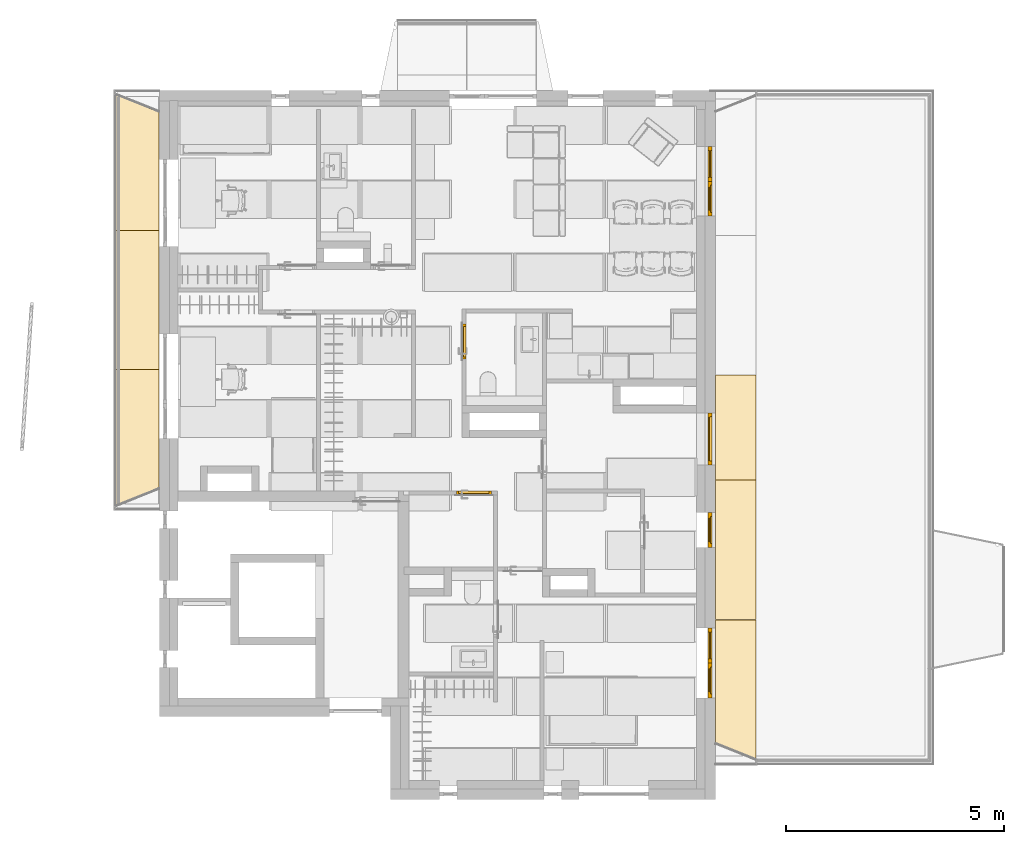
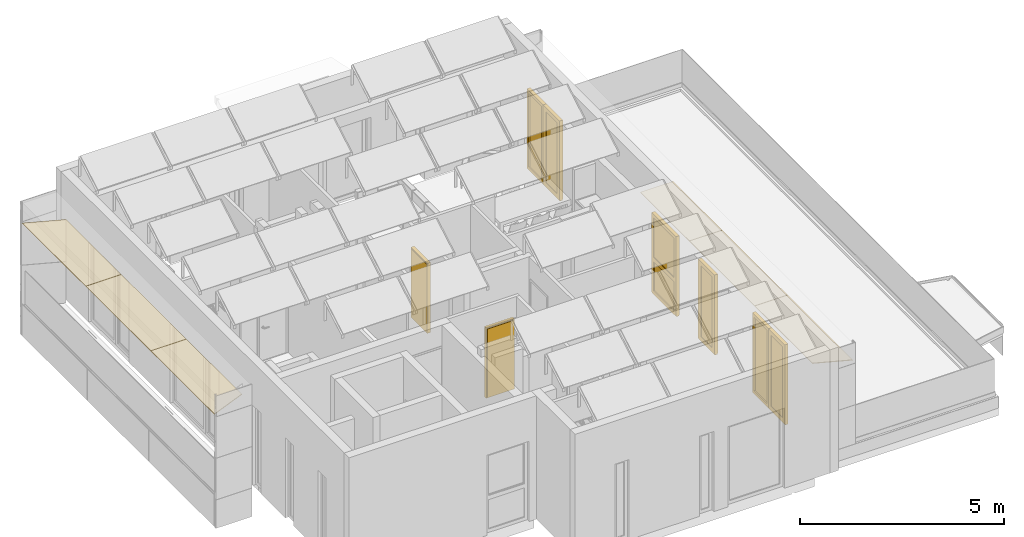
# One storey, part 20 of 57: 6 coverings, 6 windows, 2 doors.
"""IFC2X3 building model written with IfcOpenShell, lengths in millimetres."""

from ifc_helpers import new_model, entity, si_unit, converted_unit, direction, frame, frame_2d, origin, place, context, subcontext, project, spatial, polyline, rectangle, outline, extrude, faceted_brep, source, transform, mapped, material, material_list, layer, layer_set, layer_usage, type_object, type_shapes, element, save


model = new_model("IFC2X3")

# Units and contexts
model_context = context("Model", 3, precision=0.01, world=origin(), true_north=direction((6.123233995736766e-17, 1.0)))
plan_context = context("Plan", 3, precision=0.01, world=origin(), true_north=direction((6.123233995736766e-17, 1.0)))
body_context = subcontext(model_context, "Body", "Model", "MODEL_VIEW")
ifc_project = project(units=[si_unit("LENGTHUNIT", "METRE", prefix="MILLI"), converted_unit("PLANEANGLEUNIT", "DEGREE", entity("IfcPlaneAngleMeasure", 0.017453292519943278), si_unit("PLANEANGLEUNIT", "RADIAN"), dimensions=[0, 0, 0, 0, 0, 0, 0]), si_unit("AREAUNIT", "SQUARE_METRE")], contexts=[model_context, plan_context])

# Site, building, storey
site_placement = place(None, origin())
site = spatial("IfcSite", under=ifc_project, at=site_placement, Name="Default", CompositionType="ELEMENT")
building_placement = place(site_placement, origin())
building = spatial("IfcBuilding", under=site, at=building_placement, CompositionType="ELEMENT")
storey_placement = place(building_placement, frame((0.0, 0.0, 12811.000000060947)))
storey = spatial("IfcBuildingStorey", under=building, at=storey_placement, Name="5K", CompositionType="ELEMENT", Elevation=12811.000000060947)

# Windows
ifc_material_1 = material(Name="_K. Klaas. Pakett")
ifc_material_2 = material(Name="_K. Avatäited. Raam. PVC. RAL9005")
ifc_material_3 = material(Name="_K. Avatäited. Raam. PVC. Valge")
ifc_material_list_1 = material_list([ifc_material_1, ifc_material_2, ifc_material_3])
window_style_1 = type_object("IfcWindowStyle", Name="HR_Window_Generic_Rectangle_1x2:A-13.1200x2400.P", ConstructionType="NOTDEFINED", OperationType="NOTDEFINED", ParameterTakesPrecedence=False, Sizeable=False, material=ifc_material_list_1)
shared_shape_1 = source(origin(), body_context, "Body", "Brep", [
    faceted_brep([(78.0, -154.0, 2322.0), (1122.0, -154.0, 2322.0), (1122.0, -154.0, 1101.0), (78.0, -154.0, 1101.0), (1122.0, -179.0, 2322.0), (1122.0, -179.0, 1101.0), (78.0, -179.0, 1101.0), (78.0, -179.0, 2322.0)], [[[0, 1, 2, 3]], [[2, 1, 4, 5]], [[3, 2, 5, 6]], [[0, 3, 6, 7]], [[7, 6, 5, 4]], [[1, 0, 7, 4]]]),
    faceted_brep([(1122.0, -154.0, 2322.0), (1122.0, -154.0, 1101.0), (1122.0, -179.0, 1101.0), (1122.0, -179.0, 2322.0), (1142.0, -134.0, 2342.0), (58.0, -134.0, 2342.0), (58.0, -194.0, 2342.0), (1142.0, -194.0, 2342.0), (98.0, -154.0, 2302.0), (98.0, -134.0, 2302.0), (1102.0, -134.0, 2302.0), (1102.0, -154.0, 2302.0), (98.0, -179.0, 2302.0), (98.0, -194.0, 2302.0), (98.0, -194.0, 1121.0), (98.0, -179.0, 1121.0), (1142.0, -134.0, 1081.0), (1142.0, -194.0, 1081.0), (58.0, -194.0, 1081.0), (58.0, -134.0, 1081.0), (1102.0, -194.0, 2302.0), (1102.0, -194.0, 1121.0), (98.0, -134.0, 1121.0), (1102.0, -134.0, 1121.0), (98.0, -154.0, 1121.0), (1102.0, -154.0, 1121.0), (78.0, -154.0, 1101.0), (78.0, -179.0, 1101.0), (78.0, -154.0, 2322.0), (78.0, -179.0, 2322.0), (1102.0, -179.0, 2302.0), (1102.0, -179.0, 1121.0)], [[[0, 1, 2, 3]], [[4, 5, 6, 7]], [[8, 9, 10, 11]], [[12, 13, 14, 15]], [[16, 17, 18, 19]], [[4, 7, 17, 16]], [[13, 20, 21, 14], [7, 6, 18, 17]], [[6, 5, 19, 18]], [[5, 4, 16, 19], [10, 9, 22, 23]], [[9, 8, 24, 22]], [[25, 23, 22, 24]], [[11, 10, 23, 25]], [[1, 26, 27, 2]], [[26, 28, 29, 27]], [[28, 26, 1, 0], [8, 11, 25, 24]], [[28, 0, 3, 29]], [[20, 30, 31, 21]], [[21, 31, 15, 14]], [[29, 3, 2, 27], [30, 12, 15, 31]], [[13, 12, 30, 20]]], outer=[[True], [True], [True], [True], [True], [True], [False, True], [True], [True, False], [True], [True], [True], [True], [True], [True, False], [True], [True], [True], [True, False], [True]]),
    faceted_brep([(88.0, -194.0, 989.0), (1112.0, -194.0, 989.0), (1112.0, -194.0, 108.0), (88.0, -194.0, 108.0), (1142.0, -194.0, 1019.0), (58.0, -194.0, 1019.0), (58.0, -194.0, 78.0), (1142.0, -194.0, 78.0), (88.0, -159.0, 989.0), (88.0, -159.0, 108.0), (1112.0, -159.0, 108.0), (1142.0, -159.0, 1019.0), (1142.0, -159.0, 78.0), (58.0, -159.0, 78.0), (58.0, -159.0, 1019.0), (1112.0, -159.0, 989.0)], [[[0, 1, 2, 3], [4, 5, 6, 7]], [[8, 0, 3, 9]], [[9, 3, 2, 10]], [[11, 12, 13, 14], [15, 8, 9, 10]], [[1, 15, 10, 2]], [[6, 5, 14, 13]], [[7, 6, 13, 12]], [[4, 7, 12, 11]], [[15, 1, 0, 8]], [[5, 4, 11, 14]]], outer=[[False, True], [True], [True], [True, False], [True], [True], [True], [True], [True], [True]]),
    faceted_brep([(1142.0, -159.0, 1019.0), (58.0, -159.0, 1019.0), (58.0, -159.0, 78.0), (1142.0, -159.0, 78.0), (58.0, -134.0, 1019.0), (58.0, -134.0, 78.0), (1142.0, -134.0, 78.0), (1142.0, -134.0, 1019.0)], [[[0, 1, 2, 3]], [[2, 1, 4, 5]], [[3, 2, 5, 6]], [[0, 3, 6, 7]], [[7, 6, 5, 4]], [[1, 0, 7, 4]]]),
    faceted_brep([(58.0, -134.0, 2342.0), (58.0, -134.0, 1081.0), (1142.0, -134.0, 1081.0), (1142.0, -134.0, 2342.0), (88.0, -134.0, 2312.0), (1112.0, -134.0, 2312.0), (1112.0, -134.0, 1111.0), (88.0, -134.0, 1111.0), (1142.0, -134.0, 1019.0), (1142.0, -134.0, 78.0), (1142.0, -194.0, 78.0), (1142.0, -194.0, 1019.0), (58.0, -134.0, 78.0), (58.0, -134.0, 1019.0), (58.0, -194.0, 1019.0), (58.0, -194.0, 78.0), (1112.0, -100.0, 108.0), (88.0, -100.0, 108.0), (88.0, -134.0, 108.0), (1112.0, -134.0, 108.0), (88.0, -100.0, 989.0), (88.0, -134.0, 989.0), (1112.0, -100.0, 989.0), (1112.0, -134.0, 989.0), (1200.0, -194.0, 2400.0), (0.0, -194.0, 2400.0), (0.0, -194.0, 30.0), (1200.0, -194.0, 30.0), (58.0, -194.0, 2342.0), (1142.0, -194.0, 2342.0), (1142.0, -194.0, 1081.0), (58.0, -194.0, 1081.0), (0.0, -100.0, 2400.0), (0.0, -100.0, 30.0), (0.0, -110.0, 30.0), (0.0, -110.0, 0.0), (0.0, -184.0, 0.0), (0.0, -184.0, 30.0), (1200.0, -184.0, 30.0), (1200.0, -100.0, 2400.0), (1200.0, -184.0, 0.0), (1200.0, -110.0, 0.0), (1200.0, -110.0, 30.0), (1200.0, -100.0, 30.0), (88.0, -100.0, 2312.0), (88.0, -100.0, 1111.0), (1112.0, -100.0, 1111.0), (1112.0, -100.0, 2312.0)], [[[0, 1, 2, 3], [4, 5, 6, 7]], [[8, 9, 10, 11]], [[12, 13, 14, 15]], [[9, 12, 15, 10]], [[16, 17, 18, 19]], [[17, 20, 21, 18]], [[22, 16, 19, 23]], [[11, 10, 15, 14], [24, 25, 26, 27], [28, 29, 30, 31]], [[25, 32, 33, 34, 35, 36, 37, 26]], [[37, 38, 27, 26]], [[39, 24, 27, 38, 40, 41, 42, 43]], [[17, 16, 22, 20], [32, 39, 43, 33], [44, 45, 46, 47]], [[42, 34, 33, 43]], [[34, 42, 41, 35]], [[35, 41, 40, 36]], [[38, 37, 36, 40]], [[25, 24, 39, 32]], [[44, 47, 5, 4]], [[47, 46, 6, 5]], [[45, 44, 4, 7]], [[0, 3, 29, 28]], [[3, 2, 30, 29]], [[13, 8, 11, 14]], [[1, 0, 28, 31]], [[2, 1, 31, 30]], [[46, 45, 7, 6]], [[20, 22, 23, 21]], [[9, 8, 13, 12], [19, 18, 21, 23]]], outer=[[True, False], [True], [True], [True], [True], [True], [True], [False, True, False], [True], [True], [True], [False, True, False], [True], [True], [True], [True], [True], [True], [True], [True], [True], [True], [True], [True], [True], [True], [True], [True, False]]),
])
type_shapes(window_style_1, [shared_shape_1])
window_1_placement = place(storey_placement, frame((12350.0, 8440.0, 0.0), z_axis=(0.0, 0.0, 1.0), x_axis=(0.0, -1.0, 0.0)))
element("IfcWindow", 1, at=window_1_placement, inside=storey, type_object=window_style_1, material=ifc_material_list_1, Name="HR_Window_Generic_Rectangle_1x2:A-13.1200x2400.P", ObjectType="HR_Window_Generic_Rectangle_1x2:A-13.1200x2400.P", OverallHeight=2465.0000000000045, OverallWidth=1200.0000000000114, context=body_context, shape_type="MappedRepresentation", body=[
    mapped(shared_shape_1, transform((0.0, 0.0, 0.0), scale=1.0)),
])
ifc_material_list_2 = material_list([ifc_material_3, ifc_material_1, ifc_material_2])
window_style_2 = type_object("IfcWindowStyle", Name="HR_Window_Generic_Rectangle_1x1:A-02. 800x2400. ma", ConstructionType="NOTDEFINED", OperationType="NOTDEFINED", ParameterTakesPrecedence=False, Sizeable=False, material=ifc_material_list_2)
shared_shape_2 = source(origin(), body_context, "Body", "Brep", [
    faceted_brep([(88.0, -194.0, 2312.0), (712.0, -194.0, 2312.0), (712.0, -194.0, 108.0), (88.0, -194.0, 108.0), (742.0, -194.0, 2342.0), (58.0, -194.0, 2342.0), (58.0, -194.0, 78.0), (742.0, -194.0, 78.0), (88.0, -159.0, 2312.0), (88.0, -159.0, 108.0), (712.0, -159.0, 108.0), (742.0, -159.0, 2342.0), (742.0, -159.0, 78.0), (58.0, -159.0, 78.0), (58.0, -159.0, 2342.0), (712.0, -159.0, 2312.0)], [[[0, 1, 2, 3], [4, 5, 6, 7]], [[8, 0, 3, 9]], [[9, 3, 2, 10]], [[11, 12, 13, 14], [15, 8, 9, 10]], [[1, 15, 10, 2]], [[6, 5, 14, 13]], [[7, 6, 13, 12]], [[4, 7, 12, 11]], [[15, 1, 0, 8]], [[5, 4, 11, 14]]], outer=[[False, True], [True], [True], [True, False], [True], [True], [True], [True], [True], [True]]),
    faceted_brep([(742.0, -159.0, 2342.0), (58.0, -159.0, 2342.0), (58.0, -159.0, 78.0), (742.0, -159.0, 78.0), (58.0, -134.0, 2342.0), (58.0, -134.0, 78.0), (742.0, -134.0, 78.0), (742.0, -134.0, 2342.0)], [[[0, 1, 2, 3]], [[2, 1, 4, 5]], [[3, 2, 5, 6]], [[0, 3, 6, 7]], [[7, 6, 5, 4]], [[1, 0, 7, 4]]]),
    faceted_brep([(742.0, -134.0, 78.0), (58.0, -134.0, 78.0), (58.0, -194.0, 78.0), (742.0, -194.0, 78.0), (58.0, -134.0, 2342.0), (58.0, -194.0, 2342.0), (742.0, -134.0, 2342.0), (742.0, -194.0, 2342.0), (88.0, -100.0, 108.0), (88.0, -100.0, 2312.0), (88.0, -134.0, 2312.0), (88.0, -134.0, 108.0), (712.0, -100.0, 108.0), (712.0, -134.0, 108.0), (712.0, -100.0, 2312.0), (712.0, -134.0, 2312.0), (0.0, -100.0, 2400.0), (800.0, -100.0, 2400.0), (800.0, -100.0, 30.0), (0.0, -100.0, 30.0), (800.0, -194.0, 2400.0), (0.0, -194.0, 2400.0), (0.0, -194.0, 30.0), (800.0, -194.0, 30.0), (0.0, -110.0, 30.0), (0.0, -110.0, 0.0), (0.0, -184.0, 0.0), (0.0, -184.0, 30.0), (800.0, -184.0, 30.0), (800.0, -184.0, 0.0), (800.0, -110.0, 0.0), (800.0, -110.0, 30.0)], [[[0, 1, 2, 3]], [[1, 4, 5, 2]], [[6, 0, 3, 7]], [[8, 9, 10, 11]], [[12, 8, 11, 13]], [[14, 12, 13, 15]], [[16, 17, 18, 19], [9, 8, 12, 14]], [[20, 21, 22, 23], [7, 3, 2, 5]], [[21, 16, 19, 24, 25, 26, 27, 22]], [[27, 28, 23, 22]], [[17, 20, 23, 28, 29, 30, 31, 18]], [[31, 24, 19, 18]], [[24, 31, 30, 25]], [[25, 30, 29, 26]], [[28, 27, 26, 29]], [[4, 6, 7, 5]], [[9, 14, 15, 10]], [[21, 20, 17, 16]], [[10, 15, 13, 11], [0, 6, 4, 1]]], outer=[[True], [True], [True], [True], [True], [True], [True, False], [True, False], [True], [True], [True], [True], [True], [True], [True], [True], [True], [True], [False, True]]),
])
type_shapes(window_style_2, [shared_shape_2])
for number, where, z_axis, x_axis in (
    (2, (12350.0, 14550.0, 0.0), (0.0, 0.0, 1.0), (0.0, -1.0, 0.0)),
    (3, (12350.0, 3500.0, 0.0), (0.0, 0.0, 1.0), (0.0, -1.0, 0.0)),
):
    element("IfcWindow", number, at=place(storey_placement, frame(where, z_axis=z_axis, x_axis=x_axis)), inside=storey, type_object=window_style_2, material=ifc_material_list_2, Name="HR_Window_Generic_Rectangle_1x1:A-02. 800x2400. ma", ObjectType="HR_Window_Generic_Rectangle_1x1:A-02. 800x2400. ma", OverallHeight=2465.0000000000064, OverallWidth=800.000000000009, context=body_context, shape_type="MappedRepresentation", body=[
        mapped(shared_shape_2, transform((0.0, 0.0, 0.0), scale=1.0)),
    ])
ifc_material_list_3 = material_list([ifc_material_1, ifc_material_2])
window_style_3 = type_object("IfcWindowStyle", Name="HR_Window_Generic_Rectangle_1x1:A-10.800x2400.P", ConstructionType="NOTDEFINED", OperationType="NOTDEFINED", ParameterTakesPrecedence=False, Sizeable=False, material=ifc_material_list_3)
shared_shape_3 = source(origin(), body_context, "Body", "Brep", [
    faceted_brep([(108.0, -154.0, 2292.0), (692.0, -154.0, 2292.0), (692.0, -154.0, 128.0), (108.0, -154.0, 128.0), (692.0, -179.0, 2292.0), (692.0, -179.0, 128.0), (108.0, -179.0, 128.0), (108.0, -179.0, 2292.0)], [[[0, 1, 2, 3]], [[2, 1, 4, 5]], [[3, 2, 5, 6]], [[0, 3, 6, 7]], [[7, 6, 5, 4]], [[1, 0, 7, 4]]]),
    faceted_brep([(692.0, -154.0, 2292.0), (692.0, -154.0, 128.0), (692.0, -179.0, 128.0), (692.0, -179.0, 2292.0), (742.0, -134.0, 2342.0), (58.0, -134.0, 2342.0), (58.0, -194.0, 2342.0), (742.0, -194.0, 2342.0), (128.0, -154.0, 2272.0), (128.0, -134.0, 2272.0), (672.0, -134.0, 2272.0), (672.0, -154.0, 2272.0), (128.0, -179.0, 2272.0), (128.0, -194.0, 2272.0), (128.0, -194.0, 148.0), (128.0, -179.0, 148.0), (742.0, -134.0, 78.0), (742.0, -194.0, 78.0), (58.0, -194.0, 78.0), (58.0, -134.0, 78.0), (672.0, -194.0, 2272.0), (672.0, -194.0, 148.0), (128.0, -134.0, 148.0), (672.0, -134.0, 148.0), (128.0, -154.0, 148.0), (672.0, -154.0, 148.0), (108.0, -154.0, 128.0), (108.0, -179.0, 128.0), (108.0, -154.0, 2292.0), (108.0, -179.0, 2292.0), (672.0, -179.0, 2272.0), (672.0, -179.0, 148.0)], [[[0, 1, 2, 3]], [[4, 5, 6, 7]], [[8, 9, 10, 11]], [[12, 13, 14, 15]], [[16, 17, 18, 19]], [[4, 7, 17, 16]], [[13, 20, 21, 14], [7, 6, 18, 17]], [[6, 5, 19, 18]], [[5, 4, 16, 19], [10, 9, 22, 23]], [[9, 8, 24, 22]], [[25, 23, 22, 24]], [[11, 10, 23, 25]], [[1, 26, 27, 2]], [[26, 28, 29, 27]], [[28, 26, 1, 0], [8, 11, 25, 24]], [[28, 0, 3, 29]], [[20, 30, 31, 21]], [[21, 31, 15, 14]], [[29, 3, 2, 27], [30, 12, 15, 31]], [[13, 12, 30, 20]]], outer=[[True], [True], [True], [True], [True], [True], [False, True], [True], [True, False], [True], [True], [True], [True], [True], [True, False], [True], [True], [True], [True, False], [True]]),
    faceted_brep([(742.0, -134.0, 78.0), (58.0, -134.0, 78.0), (58.0, -194.0, 78.0), (742.0, -194.0, 78.0), (58.0, -134.0, 2342.0), (58.0, -194.0, 2342.0), (742.0, -134.0, 2342.0), (742.0, -194.0, 2342.0), (88.0, -100.0, 108.0), (88.0, -100.0, 2312.0), (88.0, -134.0, 2312.0), (88.0, -134.0, 108.0), (712.0, -100.0, 108.0), (712.0, -134.0, 108.0), (712.0, -100.0, 2312.0), (712.0, -134.0, 2312.0), (0.0, -100.0, 2400.0), (800.0, -100.0, 2400.0), (800.0, -100.0, 30.0), (0.0, -100.0, 30.0), (800.0, -194.0, 2400.0), (0.0, -194.0, 2400.0), (0.0, -194.0, 30.0), (800.0, -194.0, 30.0), (0.0, -110.0, 30.0), (0.0, -110.0, 0.0), (0.0, -184.0, 0.0), (0.0, -184.0, 30.0), (800.0, -184.0, 30.0), (800.0, -184.0, 0.0), (800.0, -110.0, 0.0), (800.0, -110.0, 30.0)], [[[0, 1, 2, 3]], [[1, 4, 5, 2]], [[6, 0, 3, 7]], [[8, 9, 10, 11]], [[12, 8, 11, 13]], [[14, 12, 13, 15]], [[16, 17, 18, 19], [9, 8, 12, 14]], [[20, 21, 22, 23], [7, 3, 2, 5]], [[21, 16, 19, 24, 25, 26, 27, 22]], [[27, 28, 23, 22]], [[17, 20, 23, 28, 29, 30, 31, 18]], [[31, 24, 19, 18]], [[24, 31, 30, 25]], [[25, 30, 29, 26]], [[28, 27, 26, 29]], [[4, 6, 7, 5]], [[9, 14, 15, 10]], [[21, 20, 17, 16]], [[10, 15, 13, 11], [0, 6, 4, 1]]], outer=[[True], [True], [True], [True], [True], [True], [True, False], [True, False], [True], [True], [True], [True], [True], [True], [True], [True], [True], [True], [False, True]]),
])
type_shapes(window_style_3, [shared_shape_3])
window_2_placement = place(storey_placement, frame((12350.0, 6150.0, 0.0), z_axis=(0.0, 0.0, 1.0), x_axis=(0.0, -1.0, 0.0)))
element("IfcWindow", 4, at=window_2_placement, inside=storey, type_object=window_style_3, material=ifc_material_list_3, Name="HR_Window_Generic_Rectangle_1x1:A-10.800x2400.P", ObjectType="HR_Window_Generic_Rectangle_1x1:A-10.800x2400.P", OverallHeight=2465.0000000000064, OverallWidth=800.000000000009, context=body_context, shape_type="MappedRepresentation", body=[
    mapped(shared_shape_3, transform((0.0, 0.0, 0.0), scale=1.0)),
])
window_style_4 = type_object("IfcWindowStyle", Name="HR_Window_Generic_Rectangle_1x1:A-09.800x2400.V", ConstructionType="NOTDEFINED", OperationType="NOTDEFINED", ParameterTakesPrecedence=False, Sizeable=False, material=ifc_material_list_3)
shared_shape_4 = source(origin(), body_context, "Body", "Brep", [
    faceted_brep([(108.0, -154.0, 2292.0), (692.0, -154.0, 2292.0), (692.0, -154.0, 128.0), (108.0, -154.0, 128.0), (692.0, -179.0, 2292.0), (692.0, -179.0, 128.0), (108.0, -179.0, 128.0), (108.0, -179.0, 2292.0)], [[[0, 1, 2, 3]], [[2, 1, 4, 5]], [[3, 2, 5, 6]], [[0, 3, 6, 7]], [[7, 6, 5, 4]], [[1, 0, 7, 4]]]),
    faceted_brep([(742.0, -134.0, 78.0), (742.0, -194.0, 78.0), (58.0, -194.0, 78.0), (58.0, -134.0, 78.0), (742.0, -134.0, 2342.0), (742.0, -194.0, 2342.0), (128.0, -194.0, 2272.0), (672.0, -194.0, 2272.0), (672.0, -194.0, 148.0), (128.0, -194.0, 148.0), (58.0, -194.0, 2342.0), (58.0, -134.0, 2342.0), (672.0, -134.0, 2272.0), (128.0, -134.0, 2272.0), (128.0, -134.0, 148.0), (672.0, -134.0, 148.0), (128.0, -154.0, 2272.0), (128.0, -154.0, 148.0), (672.0, -154.0, 148.0), (672.0, -154.0, 2272.0), (692.0, -154.0, 2292.0), (692.0, -154.0, 128.0), (692.0, -179.0, 128.0), (692.0, -179.0, 2292.0), (108.0, -154.0, 128.0), (108.0, -179.0, 128.0), (108.0, -154.0, 2292.0), (108.0, -179.0, 2292.0), (672.0, -179.0, 2272.0), (672.0, -179.0, 148.0), (128.0, -179.0, 148.0), (128.0, -179.0, 2272.0)], [[[0, 1, 2, 3]], [[4, 5, 1, 0]], [[6, 7, 8, 9], [5, 10, 2, 1]], [[10, 11, 3, 2]], [[12, 13, 14, 15], [11, 4, 0, 3]], [[13, 16, 17, 14]], [[18, 15, 14, 17]], [[19, 12, 15, 18]], [[20, 21, 22, 23]], [[21, 24, 25, 22]], [[24, 26, 27, 25]], [[26, 24, 21, 20], [16, 19, 18, 17]], [[4, 11, 10, 5]], [[16, 13, 12, 19]], [[26, 20, 23, 27]], [[7, 28, 29, 8]], [[8, 29, 30, 9]], [[31, 6, 9, 30]], [[27, 23, 22, 25], [28, 31, 30, 29]], [[6, 31, 28, 7]]], outer=[[True], [True], [False, True], [True], [False, True], [True], [True], [True], [True], [True], [True], [True, False], [True], [True], [True], [True], [True], [True], [True, False], [True]]),
    faceted_brep([(742.0, -134.0, 78.0), (58.0, -134.0, 78.0), (58.0, -194.0, 78.0), (742.0, -194.0, 78.0), (58.0, -134.0, 2342.0), (58.0, -194.0, 2342.0), (742.0, -134.0, 2342.0), (742.0, -194.0, 2342.0), (88.0, -100.0, 108.0), (88.0, -100.0, 2312.0), (88.0, -134.0, 2312.0), (88.0, -134.0, 108.0), (712.0, -100.0, 108.0), (712.0, -134.0, 108.0), (712.0, -100.0, 2312.0), (712.0, -134.0, 2312.0), (0.0, -100.0, 2400.0), (800.0, -100.0, 2400.0), (800.0, -100.0, 30.0), (0.0, -100.0, 30.0), (800.0, -194.0, 2400.0), (0.0, -194.0, 2400.0), (0.0, -194.0, 30.0), (800.0, -194.0, 30.0), (0.0, -110.0, 30.0), (0.0, -110.0, 0.0), (0.0, -184.0, 0.0), (0.0, -184.0, 30.0), (800.0, -184.0, 30.0), (800.0, -184.0, 0.0), (800.0, -110.0, 0.0), (800.0, -110.0, 30.0)], [[[0, 1, 2, 3]], [[1, 4, 5, 2]], [[6, 0, 3, 7]], [[8, 9, 10, 11]], [[12, 8, 11, 13]], [[14, 12, 13, 15]], [[16, 17, 18, 19], [9, 8, 12, 14]], [[20, 21, 22, 23], [7, 3, 2, 5]], [[21, 16, 19, 24, 25, 26, 27, 22]], [[27, 28, 23, 22]], [[17, 20, 23, 28, 29, 30, 31, 18]], [[31, 24, 19, 18]], [[24, 31, 30, 25]], [[25, 30, 29, 26]], [[28, 27, 26, 29]], [[4, 6, 7, 5]], [[9, 14, 15, 10]], [[21, 20, 17, 16]], [[10, 15, 13, 11], [0, 6, 4, 1]]], outer=[[True], [True], [True], [True], [True], [True], [True, False], [True, False], [True], [True], [True], [True], [True], [True], [True], [True], [True], [True], [False, True]]),
])
type_shapes(window_style_4, [shared_shape_4])
for number, where, z_axis, x_axis in (
    (5, (12350.0, 2700.0, 0.0), (0.0, 0.0, 1.0), (0.0, -1.0, 0.0)),
    (6, (12350.0, 13750.0, 0.0), (0.0, 0.0, 1.0), (0.0, -1.0, 0.0)),
):
    element("IfcWindow", number, at=place(storey_placement, frame(where, z_axis=z_axis, x_axis=x_axis)), inside=storey, type_object=window_style_4, material=ifc_material_list_3, Name="HR_Window_Generic_Rectangle_1x1:A-09.800x2400.V", ObjectType="HR_Window_Generic_Rectangle_1x1:A-09.800x2400.V", OverallHeight=2465.0000000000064, OverallWidth=800.000000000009, context=body_context, shape_type="MappedRepresentation", body=[
        mapped(shared_shape_4, transform((0.0, 0.0, 0.0), scale=1.0)),
    ])

# Doors
ifc_material_4 = material(Name="_K. Puit. Peitsitud ja lakitud")
door_style_1 = type_object("IfcDoorStyle", Name="HR_Generic_Hinged_Single:Default. Manteluks lävepakuga. 800 x 2100 mm. Right", ConstructionType="NOTDEFINED", OperationType="NOTDEFINED", ParameterTakesPrecedence=False, Sizeable=False, material=ifc_material_4)
shared_shape_5 = source(origin(), body_context, "Body", "Brep", [
    faceted_brep([(765.0, 1092.0, 20.0), (35.0, 1092.0, 20.0), (35.0, 1062.0, 20.0), (50.0, 1062.0, 20.0), (50.0, 1000.0, 20.0), (750.0, 1000.0, 20.0), (750.0, 1062.0, 20.0), (765.0, 1062.0, 20.0), (35.0, 1092.0, 0.0), (765.0, 1092.0, 0.0), (765.0, 1062.0, 0.0), (750.0, 1062.0, 0.0), (750.0, 1000.0, 0.0), (50.0, 1000.0, 0.0), (50.0, 1062.0, 0.0), (35.0, 1062.0, 0.0)], [[[0, 1, 2, 3, 4, 5, 6, 7]], [[8, 9, 10, 11, 12, 13, 14, 15]], [[1, 0, 9, 8]], [[5, 4, 13, 12]], [[2, 1, 8, 15]], [[0, 7, 10, 9]], [[3, 14, 13, 4]], [[14, 3, 2, 15]], [[6, 11, 10, 7]], [[11, 6, 5, 12]]]),
    faceted_brep([(37.0, 1062.0, 2060.0), (37.0, 1062.0, 25.0), (763.0, 1062.0, 25.0), (763.0, 1062.0, 2060.0), (27.0, 1102.0, 25.0), (27.0, 1102.0, 2070.0), (773.0, 1102.0, 2070.0), (773.0, 1102.0, 25.0), (37.0, 1092.0, 2060.0), (37.0, 1092.0, 25.0), (27.0, 1092.0, 25.0), (773.0, 1092.0, 25.0), (763.0, 1092.0, 25.0), (763.0, 1092.0, 2060.0), (27.0, 1092.0, 2070.0), (773.0, 1092.0, 2070.0)], [[[0, 1, 2, 3]], [[4, 5, 6, 7]], [[1, 0, 8, 9]], [[2, 1, 9, 10, 4, 7, 11, 12]], [[3, 2, 12, 13]], [[0, 3, 13, 8]], [[14, 10, 9, 8, 13, 12, 11, 15]], [[6, 5, 14, 15]], [[7, 6, 15, 11]], [[5, 4, 10, 14]]]),
    faceted_brep([(800.0, 1000.0, 0.0), (750.0, 1000.0, 0.0), (750.0, 1062.0, 0.0), (765.0, 1062.0, 0.0), (765.0, 1092.0, 0.0), (800.0, 1092.0, 0.0), (800.0, 1000.0, 2100.0), (0.0, 1000.0, 2100.0), (0.0, 1000.0, 0.0), (50.0, 1000.0, 0.0), (50.0, 1000.0, 2050.0), (750.0, 1000.0, 2050.0), (750.0, 1062.0, 2050.0), (35.0, 1062.0, 2065.0), (765.0, 1062.0, 2065.0), (50.0, 1062.0, 2050.0), (50.0, 1062.0, 0.0), (35.0, 1062.0, 0.0), (765.0, 1092.0, 2065.0), (0.0, 1092.0, 0.0), (0.0, 1092.0, 2100.0), (800.0, 1092.0, 2100.0), (35.0, 1092.0, 2065.0), (35.0, 1092.0, 0.0)], [[[0, 1, 2, 3, 4, 5]], [[1, 0, 6, 7, 8, 9, 10, 11]], [[1, 11, 12, 2]], [[13, 14, 3, 2, 12, 15, 16, 17]], [[3, 14, 18, 4]], [[19, 20, 21, 5, 4, 18, 22, 23]], [[0, 5, 21, 6]], [[8, 19, 23, 17, 16, 9]], [[19, 8, 7, 20]], [[13, 17, 23, 22]], [[10, 9, 16, 15]], [[7, 6, 21, 20]], [[11, 10, 15, 12]], [[14, 13, 22, 18]]]),
])
type_shapes(door_style_1, [shared_shape_5])
door_1_placement = place(storey_placement, frame((7190.0, 7644.999959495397, 0.0), z_axis=(0.0, 0.0, 1.0), x_axis=(-1.0, 0.0, 0.0)))
element("IfcDoor", 7, at=door_1_placement, inside=storey, type_object=door_style_1, material=ifc_material_4, Name="HR_Generic_Hinged_Single:Default. Manteluks lävepakuga. 800 x 2100 mm. Right", ObjectType="HR_Generic_Hinged_Single:Default. Manteluks lävepakuga. 800 x 2100 mm. Right", OverallHeight=2130.000000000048, OverallWidth=860.0000000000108, context=body_context, shape_type="MappedRepresentation", body=[
    mapped(shared_shape_5, transform((0.0, 0.0, 0.0), scale=1.0)),
])
door_style_2 = type_object("IfcDoorStyle", Name="HR_Generic_Hinged_Single:Default. Manteluks lävepakuga. 800 x 2100 mm. Left", ConstructionType="NOTDEFINED", OperationType="NOTDEFINED", ParameterTakesPrecedence=False, Sizeable=False, material=ifc_material_4)
shared_shape_6 = source(origin(), body_context, "Body", "Brep", [
    faceted_brep([(765.0, -1000.0, 20.0), (35.0, -1000.0, 20.0), (35.0, -1030.0, 20.0), (50.0, -1030.0, 20.0), (50.0, -1092.0, 20.0), (750.0, -1092.0, 20.0), (750.0, -1030.0, 20.0), (765.0, -1030.0, 20.0), (35.0, -1000.0, 0.0), (765.0, -1000.0, 0.0), (765.0, -1030.0, 0.0), (750.0, -1030.0, 0.0), (750.0, -1092.0, 0.0), (50.0, -1092.0, 0.0), (50.0, -1030.0, 0.0), (35.0, -1030.0, 0.0)], [[[0, 1, 2, 3, 4, 5, 6, 7]], [[8, 9, 10, 11, 12, 13, 14, 15]], [[1, 0, 9, 8]], [[5, 4, 13, 12]], [[2, 1, 8, 15]], [[0, 7, 10, 9]], [[3, 14, 13, 4]], [[14, 3, 2, 15]], [[6, 11, 10, 7]], [[11, 6, 5, 12]]]),
    faceted_brep([(37.0, -1030.0, 2060.0), (37.0, -1030.0, 25.0), (763.0, -1030.0, 25.0), (763.0, -1030.0, 2060.0), (27.0, -990.0, 25.0), (27.0, -990.0, 2070.0), (773.0, -990.0, 2070.0), (773.0, -990.0, 25.0), (37.0, -1000.0, 2060.0), (37.0, -1000.0, 25.0), (27.0, -1000.0, 25.0), (773.0, -1000.0, 25.0), (763.0, -1000.0, 25.0), (763.0, -1000.0, 2060.0), (27.0, -1000.0, 2070.0), (773.0, -1000.0, 2070.0)], [[[0, 1, 2, 3]], [[4, 5, 6, 7]], [[1, 0, 8, 9]], [[2, 1, 9, 10, 4, 7, 11, 12]], [[3, 2, 12, 13]], [[0, 3, 13, 8]], [[14, 10, 9, 8, 13, 12, 11, 15]], [[6, 5, 14, 15]], [[7, 6, 15, 11]], [[5, 4, 10, 14]]]),
    faceted_brep([(800.0, -1092.0, 0.0), (750.0, -1092.0, 0.0), (750.0, -1030.0, 0.0), (765.0, -1030.0, 0.0), (765.0, -1000.0, 0.0), (800.0, -1000.0, 0.0), (800.0, -1092.0, 2100.0), (0.0, -1092.0, 2100.0), (0.0, -1092.0, 0.0), (50.0, -1092.0, 0.0), (50.0, -1092.0, 2050.0), (750.0, -1092.0, 2050.0), (750.0, -1030.0, 2050.0), (35.0, -1030.0, 2065.0), (765.0, -1030.0, 2065.0), (50.0, -1030.0, 2050.0), (50.0, -1030.0, 0.0), (35.0, -1030.0, 0.0), (765.0, -1000.0, 2065.0), (0.0, -1000.0, 0.0), (0.0, -1000.0, 2100.0), (800.0, -1000.0, 2100.0), (35.0, -1000.0, 2065.0), (35.0, -1000.0, 0.0)], [[[0, 1, 2, 3, 4, 5]], [[1, 0, 6, 7, 8, 9, 10, 11]], [[1, 11, 12, 2]], [[13, 14, 3, 2, 12, 15, 16, 17]], [[3, 14, 18, 4]], [[19, 20, 21, 5, 4, 18, 22, 23]], [[0, 5, 21, 6]], [[8, 19, 23, 17, 16, 9]], [[19, 8, 7, 20]], [[13, 17, 23, 22]], [[10, 9, 16, 15]], [[7, 6, 21, 20]], [[11, 10, 15, 12]], [[14, 13, 22, 18]]]),
])
type_shapes(door_style_2, [shared_shape_6])
door_2_placement = place(storey_placement, frame((5520.0, 9675.0, 0.0), z_axis=(0.0, 0.0, 1.0), x_axis=(0.0, 1.0, 0.0)))
element("IfcDoor", 8, at=door_2_placement, inside=storey, type_object=door_style_2, material=ifc_material_4, Name="HR_Generic_Hinged_Single:Default. Manteluks lävepakuga. 800 x 2100 mm. Left", ObjectType="HR_Generic_Hinged_Single:Default. Manteluks lävepakuga. 800 x 2100 mm. Left", OverallHeight=2130.000000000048, OverallWidth=860.0000000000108, context=body_context, shape_type="MappedRepresentation", body=[
    mapped(shared_shape_6, transform((0.0, 0.0, 0.0), scale=1.0)),
])

# Coverings
ifc_material_5 = material(Name="_K. Õhk. Roov. Fassaadikatte alusroov. Horisontaalne. 25 mm")
ifc_layer_1 = layer(ifc_material_5, 16.0)
ifc_material_6 = material(Name="_K. Välisviimistlus. Alumiinium-komposiitplaat")
ifc_layer_2 = layer(ifc_material_6, 4.0)
ifc_layer_set = layer_set([ifc_layer_1, ifc_layer_2], Name="Compound Ceiling:Valge rõdud")
ifc_layer_usage_1 = layer_usage(ifc_layer_set, "AXIS3", "NEGATIVE", 20.0)
covering_type = type_object("IfcCoveringType", Name="Compound Ceiling:Valge rõdud", PredefinedType="CEILING")
covering_1_placement = place(storey_placement, frame((-1441.882865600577, 12621.99658844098, 2400.0)))
element("IfcCovering", 9, at=covering_1_placement, inside=storey, type_object=covering_type, material=ifc_layer_usage_1, Name="Compound Ceiling:Valge rõdud", ObjectType="Compound Ceiling:Valge rõdud", PredefinedType="CEILING", context=body_context, shape_type="SweptSolid", body=[
    extrude(outline(polyline([(-1658.5053094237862, -501.9414328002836), (1457.7019660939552, -501.9414328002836), (1457.7019660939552, 501.94143280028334), (-1256.898622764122, 501.94143280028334), (-1658.5053094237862, -501.9414328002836)])), frame((501.9414328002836, 1457.7019660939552, 0.0), z_axis=(0.0, 0.0, 1.0), x_axis=(0.0, -1.0, 0.0)), (0.0, 0.0, 1.0), 19.999999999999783),
])
ifc_layer_usage_2 = layer_usage(ifc_layer_set, "AXIS3", "NEGATIVE", 20.0)
covering_2_placement = place(storey_placement, frame((-1441.8828656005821, 9432.983411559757, 2400.0)))
element("IfcCovering", 10, at=covering_2_placement, inside=storey, type_object=covering_type, material=ifc_layer_usage_2, Name="Compound Ceiling:Valge rõdud", ObjectType="Compound Ceiling:Valge rõdud", PredefinedType="CEILING", context=body_context, shape_type="SweptSolid", body=[
    extrude(rectangle(XDim=3184.0131768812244, YDim=1003.8828656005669, at=frame_2d((5.684341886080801e-13, 0.0), x_axis=(1.0, 0.0))), frame((501.94143280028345, 1592.0065884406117, 0.0), z_axis=(0.0, 0.0, 1.0), x_axis=(0.0, -1.0, 0.0)), (0.0, 0.0, 1.0), 19.999999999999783),
])
ifc_layer_usage_3 = layer_usage(ifc_layer_set, "AXIS3", "NEGATIVE", 20.0)
covering_3_placement = place(storey_placement, frame((-1441.8828656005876, 6311.776136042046, 2400.0)))
element("IfcCovering", 11, at=covering_3_placement, inside=storey, type_object=covering_type, material=ifc_layer_usage_3, Name="Compound Ceiling:Valge rõdud", ObjectType="Compound Ceiling:Valge rõdud", PredefinedType="CEILING", context=body_context, shape_type="SweptSolid", body=[
    extrude(outline(polyline([(-1457.7019660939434, -501.94143280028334), (1658.5053094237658, -501.94143280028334), (1256.8986227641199, 501.9414328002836), (-1457.7019660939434, 501.9414328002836), (-1457.7019660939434, -501.94143280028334)])), frame((501.9414328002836, 1658.5053094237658, 0.0), z_axis=(0.0, 0.0, 1.0), x_axis=(0.0, -1.0, 0.0)), (0.0, 0.0, 1.0), 19.999999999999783),
])
ifc_layer_usage_4 = layer_usage(ifc_layer_set, "AXIS3", "NEGATIVE", 20.0)
covering_4_placement = place(storey_placement, frame((12338.0, 492.5304385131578, 2400.0)))
element("IfcCovering", 12, at=covering_4_placement, inside=storey, type_object=covering_type, material=ifc_layer_usage_4, Name="Compound Ceiling:Valge rõdud", ObjectType="Compound Ceiling:Valge rõdud", PredefinedType="CEILING", context=body_context, shape_type="SweptSolid", body=[
    extrude(outline(polyline([(-463.5309455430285, -1505.017138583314), (463.5309455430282, -1505.017138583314), (463.5309455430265, 1319.5800387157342), (-463.5309455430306, 1690.4542384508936), (-463.5309455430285, -1505.017138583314)])), frame((463.5309455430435, 1690.4542384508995, 0.0), z_axis=(0.0, 0.0, 1.0), x_axis=(-1.0, 0.0, 0.0)), (0.0, 0.0, 1.0), 19.999999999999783),
])
ifc_layer_usage_5 = layer_usage(ifc_layer_set, "AXIS3", "NEGATIVE", 20.0)
covering_5_placement = place(storey_placement, frame((12338.0, 3693.001815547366, 2400.0)))
element("IfcCovering", 13, at=covering_5_placement, inside=storey, type_object=covering_type, material=ifc_layer_usage_5, Name="Compound Ceiling:Valge rõdud", ObjectType="Compound Ceiling:Valge rõdud", PredefinedType="CEILING", context=body_context, shape_type="SweptSolid", body=[
    extrude(rectangle(XDim=927.0618910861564, YDim=3199.9999999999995, at=frame_2d((0.0, 3.410605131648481e-13), x_axis=(1.0, 0.0))), frame((463.5309455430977, 1600.0, 0.0), z_axis=(0.0, 0.0, 1.0), x_axis=(-1.0, 0.0, 0.0)), (0.0, 0.0, 1.0), 19.999999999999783),
])
ifc_layer_usage_6 = layer_usage(ifc_layer_set, "AXIS3", "NEGATIVE", 20.0)
covering_6_placement = place(storey_placement, frame((12338.0, 6898.0018155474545, 2400.0)))
element("IfcCovering", 14, at=covering_6_placement, inside=storey, type_object=covering_type, material=ifc_layer_usage_6, Name="Compound Ceiling:Valge rõdud", ObjectType="Compound Ceiling:Valge rõdud", PredefinedType="CEILING", context=body_context, shape_type="SweptSolid", body=[
    extrude(rectangle(XDim=927.0618910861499, YDim=2403.9981844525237, at=frame_2d((1.0800249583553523e-12, 0.0), x_axis=(1.0, 0.0))), frame((463.53094554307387, 1201.9990922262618, 0.0), z_axis=(0.0, 0.0, 1.0), x_axis=(-1.0, 0.0, 0.0)), (0.0, 0.0, 1.0), 19.999999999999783),
])

save(model, "model.ifc")
